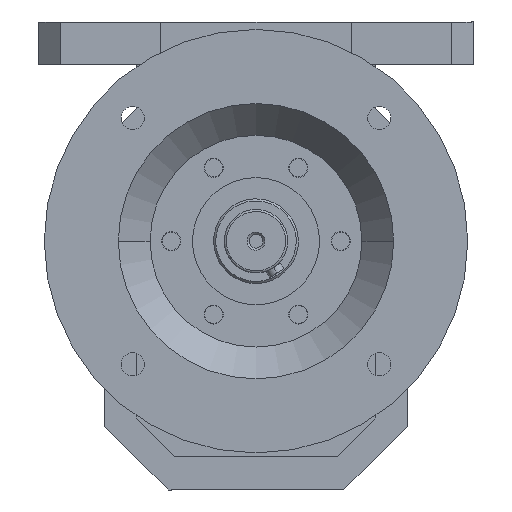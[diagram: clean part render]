
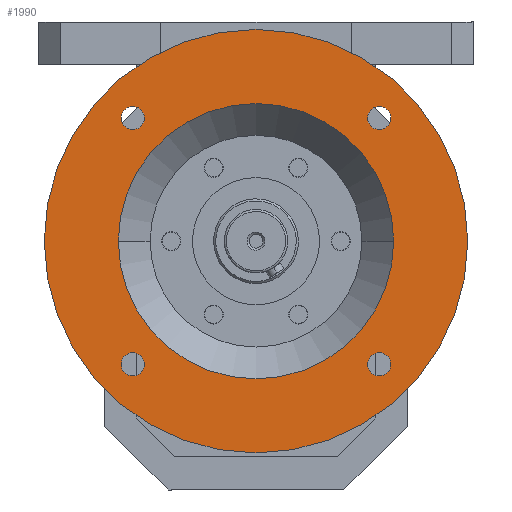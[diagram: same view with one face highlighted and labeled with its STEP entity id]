
A CAD part, front view. The second image highlights one B-rep face of the part: STEP entity #1990.
In plain terms, the highlighted planar face has unit normal (0, -1, 0).
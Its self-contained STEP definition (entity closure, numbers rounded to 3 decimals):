
#37 = CIRCLE ( 'NONE', #1460, 5.5 ) ;
#62 = DIRECTION ( 'NONE',  ( 0., 1., 0. ) ) ;
#97 = ORIENTED_EDGE ( 'NONE', *, *, #6645, .T. ) ;
#160 = CARTESIAN_POINT ( 'NONE',  ( -82.66, -19.104, -58.16 ) ) ;
#388 = VERTEX_POINT ( 'NONE', #4526 ) ;
#466 = AXIS2_PLACEMENT_3D ( 'NONE', #1986, #5981, #2568 ) ;
#467 = DIRECTION ( 'NONE',  ( 0., 1., 0. ) ) ;
#514 = AXIS2_PLACEMENT_3D ( 'NONE', #2961, #6939, #3537 ) ;
#614 = AXIS2_PLACEMENT_3D ( 'NONE', #6195, #2784, #6763 ) ;
#656 = VERTEX_POINT ( 'NONE', #3659 ) ;
#774 = DIRECTION ( 'NONE',  ( 0., 1., 0. ) ) ;
#776 = FACE_OUTER_BOUND ( 'NONE', #1512, .T. ) ;
#898 = AXIS2_PLACEMENT_3D ( 'NONE', #1091, #1068, #1016 ) ;
#910 = CARTESIAN_POINT ( 'NONE',  ( 35., -19.104, 0. ) ) ;
#1016 = DIRECTION ( 'NONE',  ( -1., 0., 0. ) ) ;
#1068 = DIRECTION ( 'NONE',  ( 0., 1., 0. ) ) ;
#1091 = CARTESIAN_POINT ( 'NONE',  ( -88.16, -19.104, -58.16 ) ) ;
#1146 = ORIENTED_EDGE ( 'NONE', *, *, #1316, .T. ) ;
#1273 = EDGE_CURVE ( 'NONE', #5887, #6960, #2836, .T. ) ;
#1316 = EDGE_CURVE ( 'NONE', #1850, #656, #5150, .T. ) ;
#1369 = EDGE_LOOP ( 'NONE', ( #1875, #3942 ) ) ;
#1460 = AXIS2_PLACEMENT_3D ( 'NONE', #4946, #1517, #5518 ) ;
#1512 = EDGE_LOOP ( 'NONE', ( #1997, #6726 ) ) ;
#1517 = DIRECTION ( 'NONE',  ( 0., 1., 0. ) ) ;
#1603 = AXIS2_PLACEMENT_3D ( 'NONE', #5350, #1919, #5924 ) ;
#1750 = EDGE_LOOP ( 'NONE', ( #2809, #97 ) ) ;
#1833 = DIRECTION ( 'NONE',  ( 0., 1., 0. ) ) ;
#1850 = VERTEX_POINT ( 'NONE', #5915 ) ;
#1869 = CIRCLE ( 'NONE', #7136, 5.5 ) ;
#1875 = ORIENTED_EDGE ( 'NONE', *, *, #5024, .T. ) ;
#1878 = EDGE_CURVE ( 'NONE', #656, #1850, #1869, .T. ) ;
#1907 = EDGE_CURVE ( 'NONE', #2636, #388, #4727, .T. ) ;
#1919 = DIRECTION ( 'NONE',  ( 0., 1., 0. ) ) ;
#1986 = CARTESIAN_POINT ( 'NONE',  ( -30., -19.104, 0. ) ) ;
#1990 = ADVANCED_FACE ( 'NONE', ( #4187, #5363, #6865, #2330, #776, #6686 ), #3775, .F. ) ;
#1997 = ORIENTED_EDGE ( 'NONE', *, *, #1907, .F. ) ;
#2028 = AXIS2_PLACEMENT_3D ( 'NONE', #4209, #774, #4790 ) ;
#2053 = EDGE_LOOP ( 'NONE', ( #1146, #3042 ) ) ;
#2144 = CARTESIAN_POINT ( 'NONE',  ( 35., -19.104, 0. ) ) ;
#2145 = ORIENTED_EDGE ( 'NONE', *, *, #4664, .T. ) ;
#2262 = CIRCLE ( 'NONE', #2028, 65. ) ;
#2276 = AXIS2_PLACEMENT_3D ( 'NONE', #5263, #1833, #5842 ) ;
#2330 = FACE_BOUND ( 'NONE', #1750, .T. ) ;
#2333 = ORIENTED_EDGE ( 'NONE', *, *, #5509, .T. ) ;
#2410 = EDGE_CURVE ( 'NONE', #6703, #3605, #2682, .T. ) ;
#2468 = AXIS2_PLACEMENT_3D ( 'NONE', #4359, #5421, #3130 ) ;
#2551 = CARTESIAN_POINT ( 'NONE',  ( 28.16, -19.104, 58.16 ) ) ;
#2568 = DIRECTION ( 'NONE',  ( -1., 0., 0. ) ) ;
#2636 = VERTEX_POINT ( 'NONE', #3504 ) ;
#2666 = CIRCLE ( 'NONE', #1603, 100. ) ;
#2668 = DIRECTION ( 'NONE',  ( 0., 1., 0. ) ) ;
#2682 = CIRCLE ( 'NONE', #3276, 65. ) ;
#2704 = CARTESIAN_POINT ( 'NONE',  ( 28.16, -19.104, -52.66 ) ) ;
#2784 = DIRECTION ( 'NONE',  ( 0., 1., 0. ) ) ;
#2809 = ORIENTED_EDGE ( 'NONE', *, *, #1273, .T. ) ;
#2836 = CIRCLE ( 'NONE', #898, 5.5 ) ;
#2961 = CARTESIAN_POINT ( 'NONE',  ( -88.16, -19.104, 58.16 ) ) ;
#2972 = EDGE_LOOP ( 'NONE', ( #2145, #2333 ) ) ;
#3042 = ORIENTED_EDGE ( 'NONE', *, *, #1878, .T. ) ;
#3043 = AXIS2_PLACEMENT_3D ( 'NONE', #3515, #62, #3066 ) ;
#3066 = DIRECTION ( 'NONE',  ( 0., 0., -1. ) ) ;
#3115 = DIRECTION ( 'NONE',  ( 1., 0., 0. ) ) ;
#3130 = DIRECTION ( 'NONE',  ( 1., 0., 0. ) ) ;
#3270 = VERTEX_POINT ( 'NONE', #5189 ) ;
#3276 = AXIS2_PLACEMENT_3D ( 'NONE', #3904, #467, #4478 ) ;
#3504 = CARTESIAN_POINT ( 'NONE',  ( -130., -19.104, 0. ) ) ;
#3515 = CARTESIAN_POINT ( 'NONE',  ( 28.16, -19.104, -58.16 ) ) ;
#3537 = DIRECTION ( 'NONE',  ( 0., 0., 1. ) ) ;
#3605 = VERTEX_POINT ( 'NONE', #4411 ) ;
#3659 = CARTESIAN_POINT ( 'NONE',  ( 33.66, -19.104, 58.16 ) ) ;
#3775 = PLANE ( 'NONE',  #4698 ) ;
#3846 = CIRCLE ( 'NONE', #3043, 5.5 ) ;
#3904 = CARTESIAN_POINT ( 'NONE',  ( -30., -19.104, 0. ) ) ;
#3942 = ORIENTED_EDGE ( 'NONE', *, *, #6061, .T. ) ;
#4187 = FACE_BOUND ( 'NONE', #2972, .T. ) ;
#4209 = CARTESIAN_POINT ( 'NONE',  ( -30., -19.104, 0. ) ) ;
#4222 = ORIENTED_EDGE ( 'NONE', *, *, #5362, .T. ) ;
#4359 = CARTESIAN_POINT ( 'NONE',  ( 28.16, -19.104, 58.16 ) ) ;
#4411 = CARTESIAN_POINT ( 'NONE',  ( -95., -19.104, 0. ) ) ;
#4478 = DIRECTION ( 'NONE',  ( -1., 0., 0. ) ) ;
#4526 = CARTESIAN_POINT ( 'NONE',  ( 70., -19.104, 0. ) ) ;
#4537 = CARTESIAN_POINT ( 'NONE',  ( 28.16, -19.104, -63.66 ) ) ;
#4664 = EDGE_CURVE ( 'NONE', #6718, #3270, #5215, .T. ) ;
#4698 = AXIS2_PLACEMENT_3D ( 'NONE', #910, #2668, #6644 ) ;
#4727 = CIRCLE ( 'NONE', #466, 100. ) ;
#4790 = DIRECTION ( 'NONE',  ( -1., 0., 0. ) ) ;
#4946 = CARTESIAN_POINT ( 'NONE',  ( -88.16, -19.104, -58.16 ) ) ;
#5021 = CARTESIAN_POINT ( 'NONE',  ( -88.16, -19.104, 63.66 ) ) ;
#5024 = EDGE_CURVE ( 'NONE', #6699, #7313, #5567, .T. ) ;
#5150 = CIRCLE ( 'NONE', #2468, 5.5 ) ;
#5189 = CARTESIAN_POINT ( 'NONE',  ( -88.16, -19.104, 52.66 ) ) ;
#5215 = CIRCLE ( 'NONE', #514, 5.5 ) ;
#5263 = CARTESIAN_POINT ( 'NONE',  ( -88.16, -19.104, 58.16 ) ) ;
#5350 = CARTESIAN_POINT ( 'NONE',  ( -30., -19.104, 0. ) ) ;
#5362 = EDGE_CURVE ( 'NONE', #3605, #6703, #2262, .T. ) ;
#5363 = FACE_BOUND ( 'NONE', #2053, .T. ) ;
#5421 = DIRECTION ( 'NONE',  ( 0., 1., 0. ) ) ;
#5509 = EDGE_CURVE ( 'NONE', #3270, #6718, #7066, .T. ) ;
#5518 = DIRECTION ( 'NONE',  ( -1., 0., 0. ) ) ;
#5567 = CIRCLE ( 'NONE', #614, 5.5 ) ;
#5842 = DIRECTION ( 'NONE',  ( 0., 0., 1. ) ) ;
#5887 = VERTEX_POINT ( 'NONE', #7288 ) ;
#5915 = CARTESIAN_POINT ( 'NONE',  ( 22.66, -19.104, 58.16 ) ) ;
#5924 = DIRECTION ( 'NONE',  ( -1., 0., 0. ) ) ;
#5981 = DIRECTION ( 'NONE',  ( 0., 1., 0. ) ) ;
#6061 = EDGE_CURVE ( 'NONE', #7313, #6699, #3846, .T. ) ;
#6195 = CARTESIAN_POINT ( 'NONE',  ( 28.16, -19.104, -58.16 ) ) ;
#6501 = EDGE_CURVE ( 'NONE', #388, #2636, #2666, .T. ) ;
#6519 = DIRECTION ( 'NONE',  ( 0., 1., 0. ) ) ;
#6644 = DIRECTION ( 'NONE',  ( -1., 0., 0. ) ) ;
#6645 = EDGE_CURVE ( 'NONE', #6960, #5887, #37, .T. ) ;
#6686 = FACE_BOUND ( 'NONE', #7233, .T. ) ;
#6699 = VERTEX_POINT ( 'NONE', #2704 ) ;
#6703 = VERTEX_POINT ( 'NONE', #2144 ) ;
#6718 = VERTEX_POINT ( 'NONE', #5021 ) ;
#6726 = ORIENTED_EDGE ( 'NONE', *, *, #6501, .F. ) ;
#6763 = DIRECTION ( 'NONE',  ( 0., 0., -1. ) ) ;
#6865 = FACE_BOUND ( 'NONE', #1369, .T. ) ;
#6899 = ORIENTED_EDGE ( 'NONE', *, *, #2410, .T. ) ;
#6939 = DIRECTION ( 'NONE',  ( 0., 1., 0. ) ) ;
#6960 = VERTEX_POINT ( 'NONE', #160 ) ;
#7066 = CIRCLE ( 'NONE', #2276, 5.5 ) ;
#7136 = AXIS2_PLACEMENT_3D ( 'NONE', #2551, #6519, #3115 ) ;
#7233 = EDGE_LOOP ( 'NONE', ( #6899, #4222 ) ) ;
#7288 = CARTESIAN_POINT ( 'NONE',  ( -93.66, -19.104, -58.16 ) ) ;
#7313 = VERTEX_POINT ( 'NONE', #4537 ) ;
